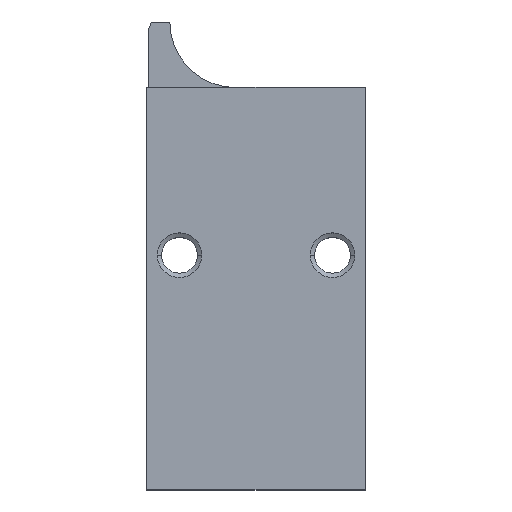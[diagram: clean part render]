
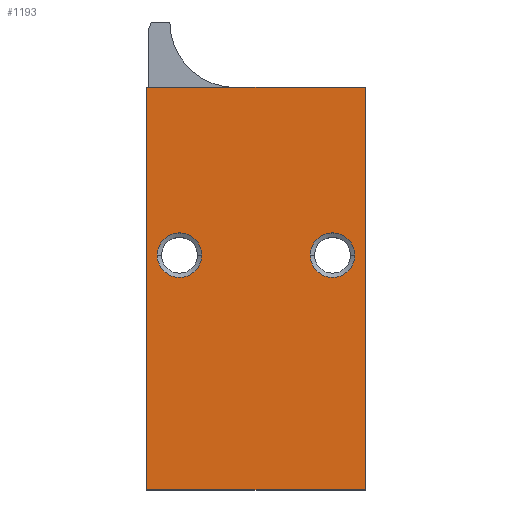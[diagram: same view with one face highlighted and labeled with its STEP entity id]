
A CAD part, top view. The second image highlights one B-rep face of the part: STEP entity #1193.
In plain terms, the highlighted planar face has unit normal (0, 0, 1).
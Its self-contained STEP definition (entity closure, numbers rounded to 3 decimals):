
#200 = VERTEX_POINT ( 'NONE', #2931 ) ;
#235 = VERTEX_POINT ( 'NONE', #3056 ) ;
#269 = VERTEX_POINT ( 'NONE', #3029 ) ;
#284 = VERTEX_POINT ( 'NONE', #2971 ) ;
#294 = VERTEX_POINT ( 'NONE', #2888 ) ;
#295 = VERTEX_POINT ( 'NONE', #3012 ) ;
#445 = CARTESIAN_POINT ( 'NONE',  ( 50., 0., 40. ) ) ;
#446 = DIRECTION ( 'NONE',  ( 0., 1., 0. ) ) ;
#468 = CARTESIAN_POINT ( 'NONE',  ( 50., 92., 40. ) ) ;
#514 = CARTESIAN_POINT ( 'NONE',  ( 50., 0., 40. ) ) ;
#700 = DIRECTION ( 'NONE',  ( -1., 0., 0. ) ) ;
#730 = CARTESIAN_POINT ( 'NONE',  ( 0., 92., 40. ) ) ;
#785 = EDGE_CURVE ( 'NONE', #284, #269, #3584, .T. ) ;
#786 = EDGE_CURVE ( 'NONE', #269, #3054, #3501, .T. ) ;
#854 = EDGE_CURVE ( 'NONE', #295, #294, #2722, .T. ) ;
#890 = EDGE_CURVE ( 'NONE', #294, #295, #2697, .T. ) ;
#900 = EDGE_CURVE ( 'NONE', #200, #235, #2772, .T. ) ;
#928 = EDGE_CURVE ( 'NONE', #3054, #2903, #2797, .T. ) ;
#947 = EDGE_CURVE ( 'NONE', #235, #200, #2703, .T. ) ;
#995 = EDGE_CURVE ( 'NONE', #2903, #284, #1429, .T. ) ;
#1085 = DIRECTION ( 'NONE',  ( 0., 0., 1. ) ) ;
#1091 = CARTESIAN_POINT ( 'NONE',  ( 42.5, 53.65, 40. ) ) ;
#1101 = DIRECTION ( 'NONE',  ( 1., 0., 0. ) ) ;
#1193 = ADVANCED_FACE ( 'NONE', ( #1856, #1858, #1860 ), #3864, .F. ) ;
#1429 = LINE ( 'NONE', #730, #1433 ) ;
#1433 = VECTOR ( 'NONE', #700, 1000. ) ;
#1577 = CARTESIAN_POINT ( 'NONE',  ( 7.5, 53.65, 40. ) ) ;
#1579 = DIRECTION ( 'NONE',  ( 1., 0., 0. ) ) ;
#1604 = DIRECTION ( 'NONE',  ( 0., 0., 1. ) ) ;
#1856 = FACE_BOUND ( 'NONE', #2618, .T. ) ;
#1858 = FACE_BOUND ( 'NONE', #2599, .T. ) ;
#1860 = FACE_OUTER_BOUND ( 'NONE', #2045, .T. ) ;
#1872 = AXIS2_PLACEMENT_3D ( 'NONE', #3851, #3876, #3879 ) ;
#1993 = AXIS2_PLACEMENT_3D ( 'NONE', #1091, #1085, #1101 ) ;
#2001 = AXIS2_PLACEMENT_3D ( 'NONE', #3205, #3264, #3259 ) ;
#2009 = AXIS2_PLACEMENT_3D ( 'NONE', #3311, #3201, #3226 ) ;
#2035 = AXIS2_PLACEMENT_3D ( 'NONE', #1577, #1604, #1579 ) ;
#2045 = EDGE_LOOP ( 'NONE', ( #2291, #2081, #2148, #2295 ) ) ;
#2081 = ORIENTED_EDGE ( 'NONE', *, *, #786, .T. ) ;
#2092 = ORIENTED_EDGE ( 'NONE', *, *, #854, .F. ) ;
#2148 = ORIENTED_EDGE ( 'NONE', *, *, #928, .T. ) ;
#2227 = ORIENTED_EDGE ( 'NONE', *, *, #947, .F. ) ;
#2291 = ORIENTED_EDGE ( 'NONE', *, *, #785, .T. ) ;
#2295 = ORIENTED_EDGE ( 'NONE', *, *, #995, .T. ) ;
#2362 = ORIENTED_EDGE ( 'NONE', *, *, #890, .F. ) ;
#2369 = ORIENTED_EDGE ( 'NONE', *, *, #900, .F. ) ;
#2599 = EDGE_LOOP ( 'NONE', ( #2362, #2092 ) ) ;
#2618 = EDGE_LOOP ( 'NONE', ( #2369, #2227 ) ) ;
#2685 = VECTOR ( 'NONE', #446, 1000. ) ;
#2697 = CIRCLE ( 'NONE', #2009, 5.1 ) ;
#2703 = CIRCLE ( 'NONE', #1993, 5.1 ) ;
#2722 = CIRCLE ( 'NONE', #2035, 5.1 ) ;
#2772 = CIRCLE ( 'NONE', #2001, 5.1 ) ;
#2797 = LINE ( 'NONE', #445, #2685 ) ;
#2888 = CARTESIAN_POINT ( 'NONE',  ( 12.6, 53.65, 40. ) ) ;
#2893 = CARTESIAN_POINT ( 'NONE',  ( 0., 0., 40. ) ) ;
#2903 = VERTEX_POINT ( 'NONE', #468 ) ;
#2931 = CARTESIAN_POINT ( 'NONE',  ( 47.6, 53.65, 40. ) ) ;
#2971 = CARTESIAN_POINT ( 'NONE',  ( 0., 92., 40. ) ) ;
#3012 = CARTESIAN_POINT ( 'NONE',  ( 2.4, 53.65, 40. ) ) ;
#3029 = CARTESIAN_POINT ( 'NONE',  ( 0., 0., 40. ) ) ;
#3050 = DIRECTION ( 'NONE',  ( 1., 0., 0. ) ) ;
#3054 = VERTEX_POINT ( 'NONE', #514 ) ;
#3056 = CARTESIAN_POINT ( 'NONE',  ( 37.4, 53.65, 40. ) ) ;
#3070 = DIRECTION ( 'NONE',  ( 0., -1., 0. ) ) ;
#3123 = CARTESIAN_POINT ( 'NONE',  ( 0., 0., 40. ) ) ;
#3201 = DIRECTION ( 'NONE',  ( 0., 0., 1. ) ) ;
#3205 = CARTESIAN_POINT ( 'NONE',  ( 42.5, 53.65, 40. ) ) ;
#3226 = DIRECTION ( 'NONE',  ( 1., 0., 0. ) ) ;
#3259 = DIRECTION ( 'NONE',  ( 1., 0., 0. ) ) ;
#3264 = DIRECTION ( 'NONE',  ( 0., 0., 1. ) ) ;
#3311 = CARTESIAN_POINT ( 'NONE',  ( 7.5, 53.65, 40. ) ) ;
#3501 = LINE ( 'NONE', #2893, #3687 ) ;
#3518 = VECTOR ( 'NONE', #3070, 1000. ) ;
#3584 = LINE ( 'NONE', #3123, #3518 ) ;
#3687 = VECTOR ( 'NONE', #3050, 1000. ) ;
#3851 = CARTESIAN_POINT ( 'NONE',  ( 0., 92., 40. ) ) ;
#3864 = PLANE ( 'NONE',  #1872 ) ;
#3876 = DIRECTION ( 'NONE',  ( 0., 0., -1. ) ) ;
#3879 = DIRECTION ( 'NONE',  ( -1., 0., 0. ) ) ;
